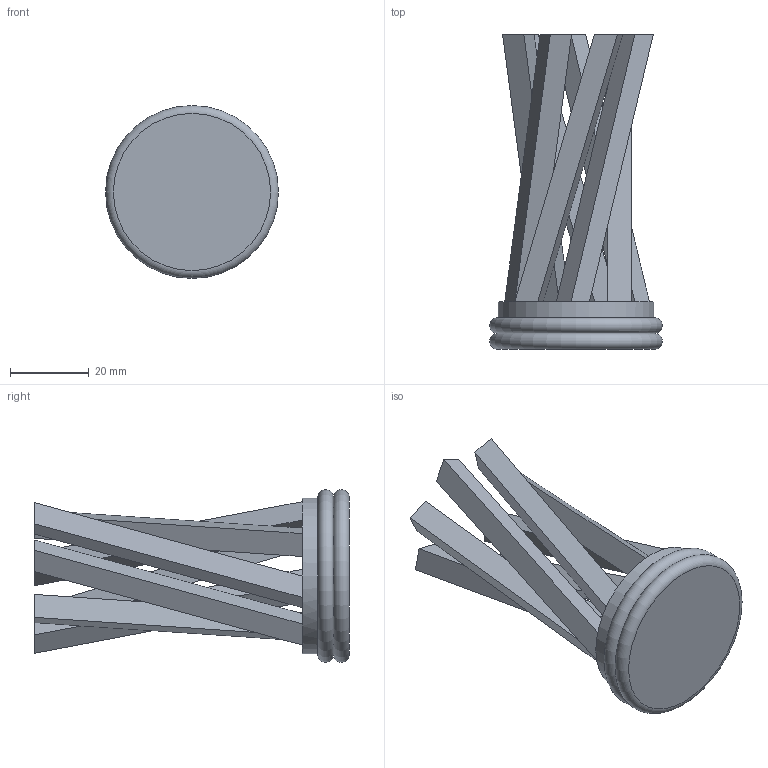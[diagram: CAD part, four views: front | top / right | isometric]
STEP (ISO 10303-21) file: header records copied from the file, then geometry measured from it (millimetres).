
FILE_DESCRIPTION(/* description */ (''),/* implementation_level */ '2;1');
FILE_NAME(/* name */ 'E:\Chess\Rook.stp',/* time_stamp */ '2021-01-30T10:46:10-05:00',/* author */ ('Owner'),/* organization */ (''),/* preprocessor_version */ 'ST-DEVELOPER v18',/* originating_system */ 'Autodesk Inventor 2020',/* authorisation */ '');
FILE_SCHEMA (('AUTOMOTIVE_DESIGN { 1 0 10303 214 3 1 1 }'));
Length unit declared in the file: millimetre
Products named in the file (1): Rook
Bounding box: 44 x 80 x 44 mm (x, y, z)
Volume: 33761.3 mm3; surface area: 16375.2 mm2
Topology: 1 solids, 1 shells, 41 faces, 98 edges, 67 vertices
Faces by surface type: plane 38, torus 2, cylinder 1
Full cylindrical faces by diameter (mm): 39.598 x1
Entity records: 1232 total; most frequent: CARTESIAN_POINT 206, DIRECTION 195, ORIENTED_EDGE 194, EDGE_CURVE 97, LINE 85, VECTOR 85, VERTEX_POINT 66, AXIS2_PLACEMENT_3D 55
